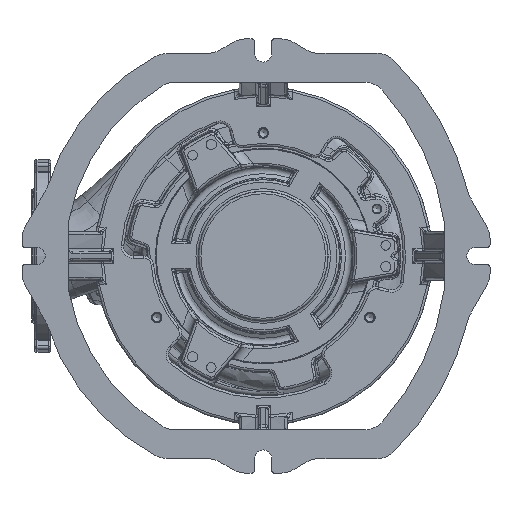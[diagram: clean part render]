
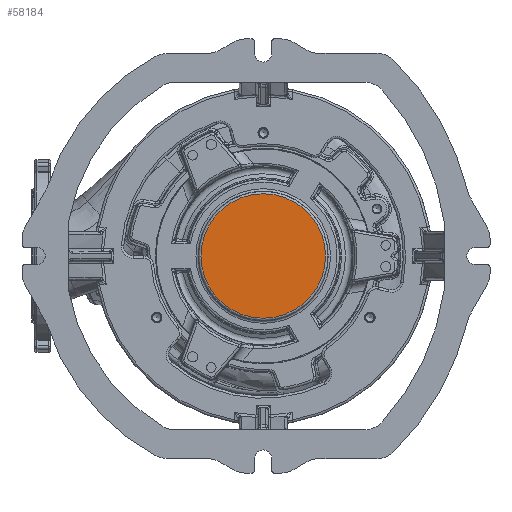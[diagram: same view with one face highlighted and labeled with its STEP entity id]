
A CAD part, front view. The second image highlights one B-rep face of the part: STEP entity #58184.
In plain terms, the highlighted planar face has unit normal (0, -1, 0).
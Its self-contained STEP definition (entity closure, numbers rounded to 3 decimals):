
#6107 = VERTEX_POINT ( 'NONE', #88813 ) ;
#8131 = EDGE_LOOP ( 'NONE', ( #44383 ) ) ;
#17930 = DIRECTION ( 'NONE',  ( 0., 0., -1. ) ) ;
#18370 = CARTESIAN_POINT ( 'NONE',  ( 67., -15.5, 0. ) ) ;
#18890 = EDGE_CURVE ( 'NONE', #6107, #6107, #50312, .T. ) ;
#19597 = AXIS2_PLACEMENT_3D ( 'NONE', #89520, #58350, #17930 ) ;
#44383 = ORIENTED_EDGE ( 'NONE', *, *, #18890, .T. ) ;
#48000 = AXIS2_PLACEMENT_3D ( 'NONE', #18370, #59524, #99606 ) ;
#50312 = CIRCLE ( 'NONE', #19597, 64.543 ) ;
#51725 = PLANE ( 'NONE',  #48000 ) ;
#58184 = ADVANCED_FACE ( 'NONE', ( #87489 ), #51725, .T. ) ;
#58350 = DIRECTION ( 'NONE',  ( 0., -1., 0. ) ) ;
#59524 = DIRECTION ( 'NONE',  ( 0., -1., 0. ) ) ;
#87489 = FACE_OUTER_BOUND ( 'NONE', #8131, .T. ) ;
#88813 = CARTESIAN_POINT ( 'NONE',  ( 0., -15.5, -64.543 ) ) ;
#89520 = CARTESIAN_POINT ( 'NONE',  ( 0., -15.5, 0. ) ) ;
#99606 = DIRECTION ( 'NONE',  ( 0., 0., -1. ) ) ;
